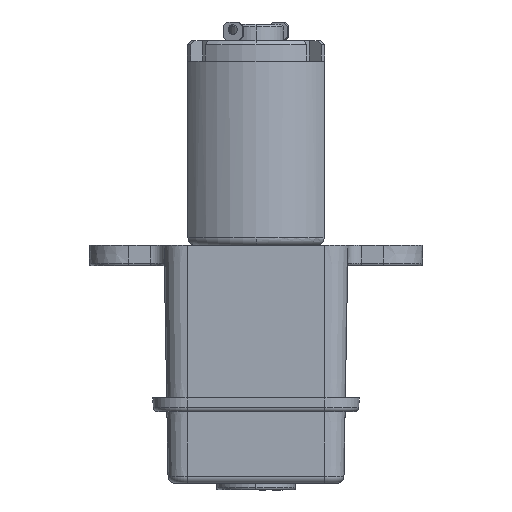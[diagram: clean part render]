
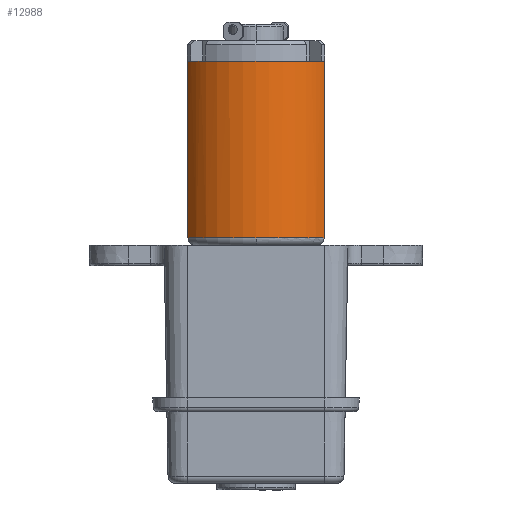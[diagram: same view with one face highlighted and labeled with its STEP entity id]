
A CAD part, front view. The second image highlights one B-rep face of the part: STEP entity #12988.
In plain terms, the highlighted cylindrical face has radius 5.98 mm (diameter 11.96 mm), a partial arc.
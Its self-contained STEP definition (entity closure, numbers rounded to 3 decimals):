
#226 = AXIS2_PLACEMENT_3D ( 'NONE', #7122, #1458, #14233 ) ;
#391 = AXIS2_PLACEMENT_3D ( 'NONE', #10989, #7208, #8463 ) ;
#432 = EDGE_CURVE ( 'NONE', #13526, #12984, #6719, .T. ) ;
#910 = CARTESIAN_POINT ( 'NONE',  ( 4.95, 13.45, 3.355 ) ) ;
#1058 = CYLINDRICAL_SURFACE ( 'NONE', #5401, 5.98 ) ;
#1129 = DIRECTION ( 'NONE',  ( 0., 0., 1. ) ) ;
#1248 = EDGE_CURVE ( 'NONE', #13545, #9055, #4007, .T. ) ;
#1458 = DIRECTION ( 'NONE',  ( 0., 1., 0. ) ) ;
#1467 = EDGE_LOOP ( 'NONE', ( #12056, #8789, #10343, #11426, #8324, #2502, #12903, #12343, #2770 ) ) ;
#1564 = CARTESIAN_POINT ( 'NONE',  ( 0., 13.45, 0. ) ) ;
#1808 = CARTESIAN_POINT ( 'NONE',  ( -4.95, 13.45, 3.355 ) ) ;
#2195 = CARTESIAN_POINT ( 'NONE',  ( 0., 13.45, 0. ) ) ;
#2202 = DIRECTION ( 'NONE',  ( 0., -1., 0. ) ) ;
#2490 = AXIS2_PLACEMENT_3D ( 'NONE', #1564, #10836, #2853 ) ;
#2502 = ORIENTED_EDGE ( 'NONE', *, *, #8042, .F. ) ;
#2770 = ORIENTED_EDGE ( 'NONE', *, *, #10873, .F. ) ;
#2853 = DIRECTION ( 'NONE',  ( 0., 0., 1. ) ) ;
#3117 = CARTESIAN_POINT ( 'NONE',  ( 4.95, 13.45, 3.355 ) ) ;
#3558 = CARTESIAN_POINT ( 'NONE',  ( 0., 0.6, 0. ) ) ;
#3562 = CARTESIAN_POINT ( 'NONE',  ( -3.665, 13.45, 4.725 ) ) ;
#3764 = VERTEX_POINT ( 'NONE', #9952 ) ;
#4007 = LINE ( 'NONE', #5132, #4228 ) ;
#4228 = VECTOR ( 'NONE', #6101, 1000. ) ;
#4512 = EDGE_CURVE ( 'NONE', #12984, #3764, #14677, .T. ) ;
#4592 = CARTESIAN_POINT ( 'NONE',  ( 3.665, 13.45, 4.725 ) ) ;
#4597 = FACE_OUTER_BOUND ( 'NONE', #1467, .T. ) ;
#4803 = DIRECTION ( 'NONE',  ( 0., 1., 0. ) ) ;
#5067 = CARTESIAN_POINT ( 'NONE',  ( -4.95, 0.6, 3.355 ) ) ;
#5132 = CARTESIAN_POINT ( 'NONE',  ( -4.95, 13.45, 3.355 ) ) ;
#5401 = AXIS2_PLACEMENT_3D ( 'NONE', #2195, #9187, #6869 ) ;
#5645 = AXIS2_PLACEMENT_3D ( 'NONE', #3558, #9277, #13912 ) ;
#5767 = CARTESIAN_POINT ( 'NONE',  ( -4.725, 13.45, 3.665 ) ) ;
#5919 = CARTESIAN_POINT ( 'NONE',  ( 0., 13.45, 0. ) ) ;
#6101 = DIRECTION ( 'NONE',  ( 0., -1., 0. ) ) ;
#6719 = CIRCLE ( 'NONE', #226, 5.98 ) ;
#6849 = CARTESIAN_POINT ( 'NONE',  ( 0., 13.45, 0. ) ) ;
#6869 = DIRECTION ( 'NONE',  ( 0., 0., -1. ) ) ;
#7122 = CARTESIAN_POINT ( 'NONE',  ( 0., 13.45, 0. ) ) ;
#7208 = DIRECTION ( 'NONE',  ( 0., 1., 0. ) ) ;
#7303 = CIRCLE ( 'NONE', #12159, 5.98 ) ;
#7732 = CARTESIAN_POINT ( 'NONE',  ( 4.725, 13.45, 3.665 ) ) ;
#8042 = EDGE_CURVE ( 'NONE', #10244, #13526, #8427, .T. ) ;
#8162 = EDGE_CURVE ( 'NONE', #14683, #10244, #13397, .T. ) ;
#8183 = AXIS2_PLACEMENT_3D ( 'NONE', #6849, #9028, #13664 ) ;
#8324 = ORIENTED_EDGE ( 'NONE', *, *, #432, .F. ) ;
#8427 = CIRCLE ( 'NONE', #8183, 5.98 ) ;
#8463 = DIRECTION ( 'NONE',  ( 0., 0., 1. ) ) ;
#8789 = ORIENTED_EDGE ( 'NONE', *, *, #13479, .T. ) ;
#9028 = DIRECTION ( 'NONE',  ( 0., 1., 0. ) ) ;
#9034 = EDGE_CURVE ( 'NONE', #12235, #3764, #11001, .T. ) ;
#9055 = VERTEX_POINT ( 'NONE', #5067 ) ;
#9187 = DIRECTION ( 'NONE',  ( 0., -1., 0. ) ) ;
#9277 = DIRECTION ( 'NONE',  ( 0., 1., 0. ) ) ;
#9402 = DIRECTION ( 'NONE',  ( 0., 0., 1. ) ) ;
#9545 = VERTEX_POINT ( 'NONE', #5767 ) ;
#9952 = CARTESIAN_POINT ( 'NONE',  ( 4.95, 0.6, 3.355 ) ) ;
#10038 = DIRECTION ( 'NONE',  ( 0., 1., 0. ) ) ;
#10105 = CARTESIAN_POINT ( 'NONE',  ( 0., 13.45, 0. ) ) ;
#10175 = EDGE_CURVE ( 'NONE', #9545, #14683, #7303, .T. ) ;
#10244 = VERTEX_POINT ( 'NONE', #4592 ) ;
#10343 = ORIENTED_EDGE ( 'NONE', *, *, #9034, .T. ) ;
#10479 = CIRCLE ( 'NONE', #5645, 5.98 ) ;
#10836 = DIRECTION ( 'NONE',  ( 0., 1., 0. ) ) ;
#10873 = EDGE_CURVE ( 'NONE', #13545, #9545, #10922, .T. ) ;
#10922 = CIRCLE ( 'NONE', #2490, 5.98 ) ;
#10989 = CARTESIAN_POINT ( 'NONE',  ( 0., 0.6, 0. ) ) ;
#11001 = CIRCLE ( 'NONE', #391, 5.98 ) ;
#11380 = VECTOR ( 'NONE', #2202, 1000. ) ;
#11426 = ORIENTED_EDGE ( 'NONE', *, *, #4512, .F. ) ;
#12056 = ORIENTED_EDGE ( 'NONE', *, *, #1248, .T. ) ;
#12159 = AXIS2_PLACEMENT_3D ( 'NONE', #10105, #10038, #1129 ) ;
#12235 = VERTEX_POINT ( 'NONE', #14311 ) ;
#12343 = ORIENTED_EDGE ( 'NONE', *, *, #10175, .F. ) ;
#12903 = ORIENTED_EDGE ( 'NONE', *, *, #8162, .F. ) ;
#12984 = VERTEX_POINT ( 'NONE', #910 ) ;
#12988 = ADVANCED_FACE ( 'NONE', ( #4597 ), #1058, .T. ) ;
#13397 = CIRCLE ( 'NONE', #13642, 5.98 ) ;
#13479 = EDGE_CURVE ( 'NONE', #9055, #12235, #10479, .T. ) ;
#13526 = VERTEX_POINT ( 'NONE', #7732 ) ;
#13545 = VERTEX_POINT ( 'NONE', #1808 ) ;
#13642 = AXIS2_PLACEMENT_3D ( 'NONE', #5919, #4803, #9402 ) ;
#13664 = DIRECTION ( 'NONE',  ( 0., 0., 1. ) ) ;
#13912 = DIRECTION ( 'NONE',  ( 0., 0., 1. ) ) ;
#14233 = DIRECTION ( 'NONE',  ( 0., 0., 1. ) ) ;
#14311 = CARTESIAN_POINT ( 'NONE',  ( 0., 0.6, 5.98 ) ) ;
#14677 = LINE ( 'NONE', #3117, #11380 ) ;
#14683 = VERTEX_POINT ( 'NONE', #3562 ) ;
